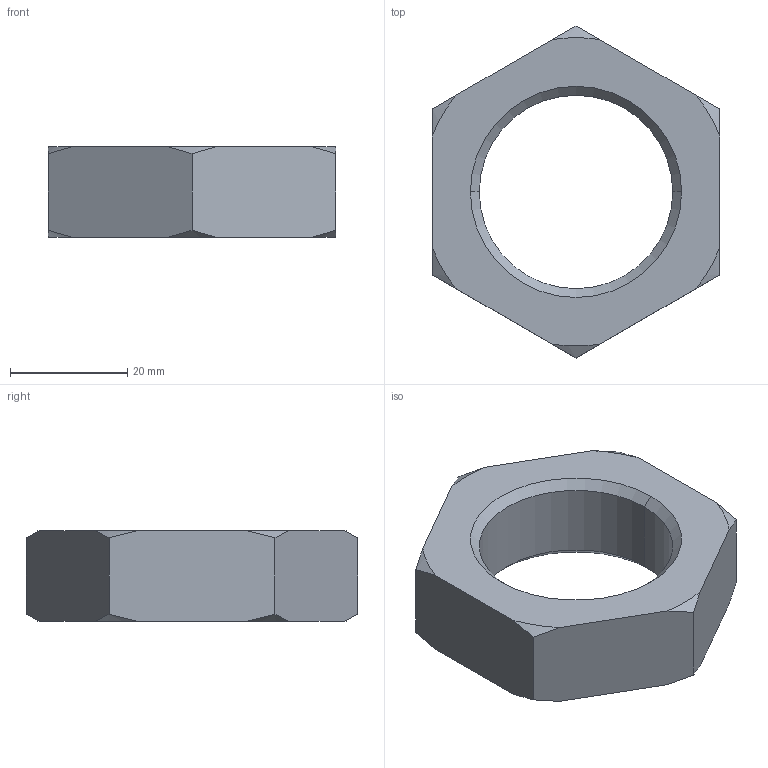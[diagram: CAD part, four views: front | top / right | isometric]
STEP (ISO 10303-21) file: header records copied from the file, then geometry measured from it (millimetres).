
FILE_DESCRIPTION (( 'STEP AP203' ), '1' );
FILE_NAME ('P0306.330-200-A2.step', '2018-12-15T14:55:47', ( '' ), ( '' ), 'SwSTEP 2.0', 'SolidWorks 2017', '' );
FILE_SCHEMA (( 'CONFIG_CONTROL_DESIGN' ));
Length unit declared in the file: millimetre
Products named in the file (1): P0306.330-200-A2
Bounding box: 49 x 56.58 x 15.4 mm (x, y, z)
Volume: 18575.6 mm3; surface area: 6435.9 mm2
Topology: 1 solids, 1 shells, 26 faces, 68 edges, 44 vertices
Faces by surface type: cone 16, plane 8, cylinder 2
Entity records: 921 total; most frequent: CARTESIAN_POINT 227, ORIENTED_EDGE 136, DIRECTION 118, EDGE_CURVE 68, AXIS2_PLACEMENT_3D 47, VERTEX_POINT 44, EDGE_LOOP 28, FACE_OUTER_BOUND 26
